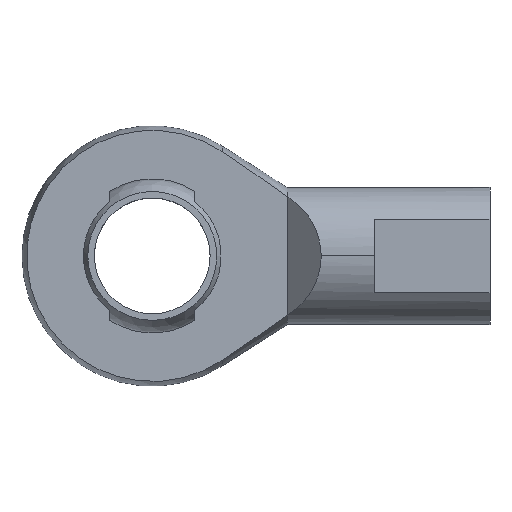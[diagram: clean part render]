
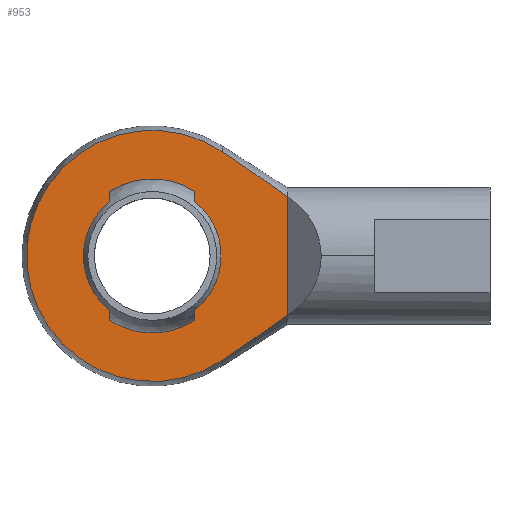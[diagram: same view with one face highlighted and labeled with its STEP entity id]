
A CAD part, top view. The second image highlights one B-rep face of the part: STEP entity #953.
In plain terms, the highlighted planar face has unit normal (0, 0, 1).
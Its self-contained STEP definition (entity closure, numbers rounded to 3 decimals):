
#42 = DIRECTION ( 'NONE',  ( -1., 0., 0. ) ) ;
#43 = DIRECTION ( 'NONE',  ( 0., 0., -1. ) ) ;
#44 = CARTESIAN_POINT ( 'NONE',  ( -67.5, -67.5, 18. ) ) ;
#45 = AXIS2_PLACEMENT_3D ( 'NONE', #44, #43, #42 ) ;
#46 = PLANE ( 'NONE',  #45 ) ;
#47 = FACE_OUTER_BOUND ( 'NONE', #966, .T. ) ;
#48 = FACE_BOUND ( 'NONE', #956, .T. ) ;
#53 = CARTESIAN_POINT ( 'NONE',  ( 70., -30.598, 18. ) ) ;
#54 = CARTESIAN_POINT ( 'NONE',  ( 67.24, -32.633, 18. ) ) ;
#55 = CARTESIAN_POINT ( 'NONE',  ( 64.454, -34.635, 18. ) ) ;
#56 = CARTESIAN_POINT ( 'NONE',  ( 58.857, -38.597, 18. ) ) ;
#57 = CARTESIAN_POINT ( 'NONE',  ( 56.043, -40.558, 18. ) ) ;
#58 = CARTESIAN_POINT ( 'NONE',  ( 47.576, -46.4, 18. ) ) ;
#59 = CARTESIAN_POINT ( 'NONE',  ( 41.894, -50.242, 18. ) ) ;
#60 = CARTESIAN_POINT ( 'NONE',  ( 36.195, -54.057, 18. ) ) ;
#62 = B_SPLINE_CURVE_WITH_KNOTS ( 'NONE', 3,
 ( #60, #59, #58, #57, #56, #55, #54, #53 ),
 .UNSPECIFIED., .F., .F.,
 ( 4, 2, 2, 4 ),
 ( 0.386, 0.407, 0.417, 0.428 ),
 .UNSPECIFIED. ) ;
#77 = DIRECTION ( 'NONE',  ( 0., 1., 0. ) ) ;
#78 = VECTOR ( 'NONE', #77, 1000. ) ;
#79 = CARTESIAN_POINT ( 'NONE',  ( 70., -67.5, 18. ) ) ;
#80 = LINE ( 'NONE', #79, #78 ) ;
#81 = DIRECTION ( 'NONE',  ( 1., 0., 0. ) ) ;
#82 = DIRECTION ( 'NONE',  ( 0., 0., 1. ) ) ;
#83 = CARTESIAN_POINT ( 'NONE',  ( 0., 0., 18. ) ) ;
#84 = AXIS2_PLACEMENT_3D ( 'NONE', #83, #82, #81 ) ;
#90 = CIRCLE ( 'NONE', #84, 40. ) ;
#115 = CARTESIAN_POINT ( 'NONE',  ( 70., 30.598, 18. ) ) ;
#130 = CARTESIAN_POINT ( 'NONE',  ( 36.195, 54.057, 18. ) ) ;
#131 = DIRECTION ( 'NONE',  ( -1., 0., 0. ) ) ;
#132 = DIRECTION ( 'NONE',  ( 0., 0., 1. ) ) ;
#133 = CARTESIAN_POINT ( 'NONE',  ( 0., 0., 18. ) ) ;
#134 = AXIS2_PLACEMENT_3D ( 'NONE', #133, #132, #131 ) ;
#135 = CIRCLE ( 'NONE', #134, 65.056 ) ;
#141 = CARTESIAN_POINT ( 'NONE',  ( 36.195, -54.057, 18. ) ) ;
#180 = DIRECTION ( 'NONE',  ( 0., -1., 0. ) ) ;
#181 = VECTOR ( 'NONE', #180, 1000. ) ;
#182 = CARTESIAN_POINT ( 'NONE',  ( -22., 33.407, 18. ) ) ;
#183 = LINE ( 'NONE', #182, #181 ) ;
#705 = DIRECTION ( 'NONE',  ( -1., 0., 0. ) ) ;
#714 = DIRECTION ( 'NONE',  ( 0., 0., -1. ) ) ;
#715 = AXIS2_PLACEMENT_3D ( 'NONE', #717, #714, #705 ) ;
#717 = CARTESIAN_POINT ( 'NONE',  ( 0., 0., 18. ) ) ;
#825 = EDGE_CURVE ( 'NONE', #905, #865, #1356, .T. ) ;
#826 = EDGE_CURVE ( 'NONE', #834, #833, #1347, .T. ) ;
#833 = VERTEX_POINT ( 'NONE', #1389 ) ;
#834 = VERTEX_POINT ( 'NONE', #1388 ) ;
#838 = ORIENTED_EDGE ( 'NONE', *, *, #1044, .F. ) ;
#855 = VERTEX_POINT ( 'NONE', #1411 ) ;
#865 = VERTEX_POINT ( 'NONE', #1435 ) ;
#877 = EDGE_CURVE ( 'NONE', #984, #1002, #1475, .T. ) ;
#905 = VERTEX_POINT ( 'NONE', #1533 ) ;
#906 = EDGE_CURVE ( 'NONE', #907, #930, #1532, .T. ) ;
#907 = VERTEX_POINT ( 'NONE', #1528 ) ;
#928 = EDGE_CURVE ( 'NONE', #938, #930, #1602, .T. ) ;
#930 = VERTEX_POINT ( 'NONE', #1597 ) ;
#938 = VERTEX_POINT ( 'NONE', #1579 ) ;
#939 = VERTEX_POINT ( 'NONE', #1578 ) ;
#940 = EDGE_CURVE ( 'NONE', #939, #905, #1577, .T. ) ;
#941 = ORIENTED_EDGE ( 'NONE', *, *, #942, .T. ) ;
#942 = EDGE_CURVE ( 'NONE', #834, #865, #1346, .T. ) ;
#943 = ORIENTED_EDGE ( 'NONE', *, *, #825, .F. ) ;
#944 = ORIENTED_EDGE ( 'NONE', *, *, #826, .F. ) ;
#945 = ORIENTED_EDGE ( 'NONE', *, *, #940, .F. ) ;
#951 = EDGE_CURVE ( 'NONE', #997, #855, #62, .T. ) ;
#953 = ADVANCED_FACE ( 'NONE', ( #48, #47 ), #46, .F. ) ;
#956 = EDGE_LOOP ( 'NONE', ( #944, #941, #943, #945, #838, #1045, #963, #964 ) ) ;
#963 = ORIENTED_EDGE ( 'NONE', *, *, #906, .F. ) ;
#964 = ORIENTED_EDGE ( 'NONE', *, *, #965, .F. ) ;
#965 = EDGE_CURVE ( 'NONE', #833, #907, #90, .T. ) ;
#966 = EDGE_LOOP ( 'NONE', ( #967, #968, #970, #971 ) ) ;
#967 = ORIENTED_EDGE ( 'NONE', *, *, #951, .T. ) ;
#968 = ORIENTED_EDGE ( 'NONE', *, *, #969, .T. ) ;
#969 = EDGE_CURVE ( 'NONE', #855, #984, #80, .T. ) ;
#970 = ORIENTED_EDGE ( 'NONE', *, *, #877, .T. ) ;
#971 = ORIENTED_EDGE ( 'NONE', *, *, #1000, .T. ) ;
#984 = VERTEX_POINT ( 'NONE', #115 ) ;
#997 = VERTEX_POINT ( 'NONE', #141 ) ;
#1000 = EDGE_CURVE ( 'NONE', #1002, #997, #135, .T. ) ;
#1002 = VERTEX_POINT ( 'NONE', #130 ) ;
#1044 = EDGE_CURVE ( 'NONE', #938, #939, #183, .T. ) ;
#1045 = ORIENTED_EDGE ( 'NONE', *, *, #928, .T. ) ;
#1343 = DIRECTION ( 'NONE',  ( 0., 1., 0. ) ) ;
#1344 = VECTOR ( 'NONE', #1343, 1000. ) ;
#1345 = CARTESIAN_POINT ( 'NONE',  ( 22., 33.407, 18. ) ) ;
#1346 = CIRCLE ( 'NONE', #715, 35.721 ) ;
#1347 = LINE ( 'NONE', #1345, #1344 ) ;
#1348 = DIRECTION ( 'NONE',  ( 0., 1., 0. ) ) ;
#1349 = VECTOR ( 'NONE', #1348, 1000. ) ;
#1350 = CARTESIAN_POINT ( 'NONE',  ( 22., 33.407, 18. ) ) ;
#1356 = LINE ( 'NONE', #1350, #1349 ) ;
#1388 = CARTESIAN_POINT ( 'NONE',  ( 22., 28.142, 18. ) ) ;
#1389 = CARTESIAN_POINT ( 'NONE',  ( 22., 33.407, 18. ) ) ;
#1411 = CARTESIAN_POINT ( 'NONE',  ( 70., -30.598, 18. ) ) ;
#1435 = CARTESIAN_POINT ( 'NONE',  ( 22., -28.142, 18. ) ) ;
#1466 = CARTESIAN_POINT ( 'NONE',  ( 36.195, 54.057, 18. ) ) ;
#1467 = CARTESIAN_POINT ( 'NONE',  ( 41.893, 50.242, 18. ) ) ;
#1468 = CARTESIAN_POINT ( 'NONE',  ( 47.574, 46.401, 18. ) ) ;
#1469 = CARTESIAN_POINT ( 'NONE',  ( 56.041, 40.559, 18. ) ) ;
#1470 = CARTESIAN_POINT ( 'NONE',  ( 58.855, 38.598, 18. ) ) ;
#1471 = CARTESIAN_POINT ( 'NONE',  ( 64.453, 34.636, 18. ) ) ;
#1472 = CARTESIAN_POINT ( 'NONE',  ( 67.238, 32.634, 18. ) ) ;
#1473 = CARTESIAN_POINT ( 'NONE',  ( 70., 30.598, 18. ) ) ;
#1475 = B_SPLINE_CURVE_WITH_KNOTS ( 'NONE', 3,
 ( #1473, #1472, #1471, #1470, #1469, #1468, #1467, #1466 ),
 .UNSPECIFIED., .F., .F.,
 ( 4, 2, 2, 4 ),
 ( 0.512, 0.523, 0.533, 0.554 ),
 .UNSPECIFIED. ) ;
#1528 = CARTESIAN_POINT ( 'NONE',  ( -22., 33.407, 18. ) ) ;
#1529 = DIRECTION ( 'NONE',  ( 0., -1., 0. ) ) ;
#1530 = VECTOR ( 'NONE', #1529, 1000. ) ;
#1531 = CARTESIAN_POINT ( 'NONE',  ( -22., 33.407, 18. ) ) ;
#1532 = LINE ( 'NONE', #1531, #1530 ) ;
#1533 = CARTESIAN_POINT ( 'NONE',  ( 22., -33.407, 18. ) ) ;
#1573 = DIRECTION ( 'NONE',  ( 1., 0., 0. ) ) ;
#1574 = DIRECTION ( 'NONE',  ( 0., 0., 1. ) ) ;
#1575 = CARTESIAN_POINT ( 'NONE',  ( 0., 0., 18. ) ) ;
#1576 = AXIS2_PLACEMENT_3D ( 'NONE', #1575, #1574, #1573 ) ;
#1577 = CIRCLE ( 'NONE', #1576, 40. ) ;
#1578 = CARTESIAN_POINT ( 'NONE',  ( -22., -33.407, 18. ) ) ;
#1579 = CARTESIAN_POINT ( 'NONE',  ( -22., -28.142, 18. ) ) ;
#1597 = CARTESIAN_POINT ( 'NONE',  ( -22., 28.142, 18. ) ) ;
#1598 = DIRECTION ( 'NONE',  ( -1., 0., 0. ) ) ;
#1599 = DIRECTION ( 'NONE',  ( 0., 0., -1. ) ) ;
#1600 = CARTESIAN_POINT ( 'NONE',  ( 0., 0., 18. ) ) ;
#1601 = AXIS2_PLACEMENT_3D ( 'NONE', #1600, #1599, #1598 ) ;
#1602 = CIRCLE ( 'NONE', #1601, 35.721 ) ;
